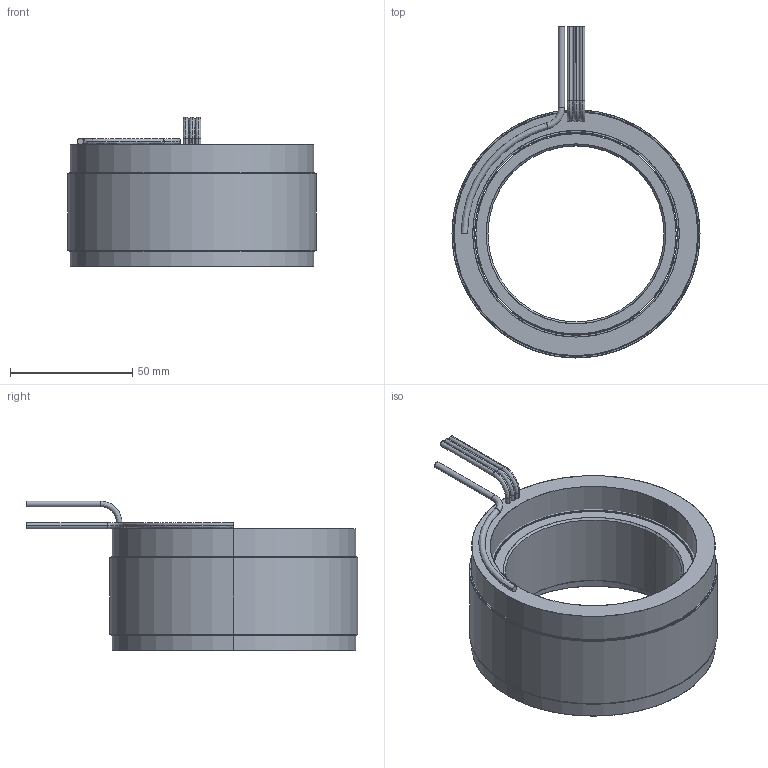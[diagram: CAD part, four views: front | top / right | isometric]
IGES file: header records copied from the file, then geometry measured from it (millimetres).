
Start section: SolidWorks IGES file using analytic representation for surfaces
Global section: file name: \\fs01.aveox.local\user documents\eng\My Documents\6100395-XX STATOR AND ROTOR SET, UT-4000-32P3, SENSORLESS\6100395-04.IGS; native system: SolidWorks 2016; preprocessor: SolidWorks 2016; author: eng; date: 201215.093521; units: inch
Bounding box: 101.6 x 135.89 x 61.34 mm (x, y, z)
Surface area: 97581.3 mm2 (no closed solid volume)
Topology: 0 solids, 0 shells, 75 faces, 2224 edges, 2224 vertices
Faces by surface type: revolution 46, bspline 29
